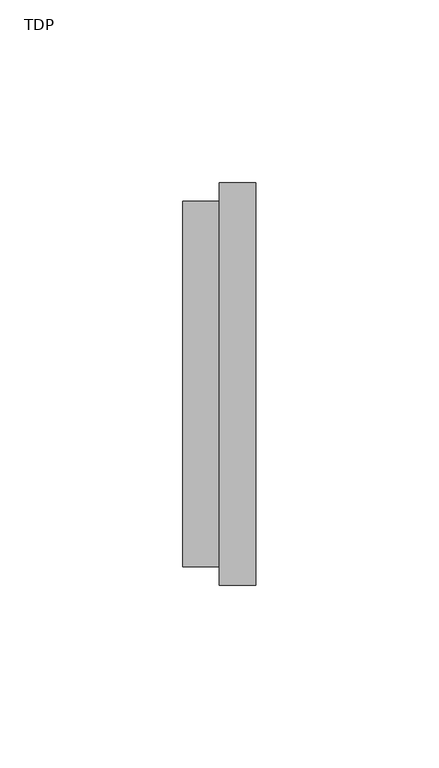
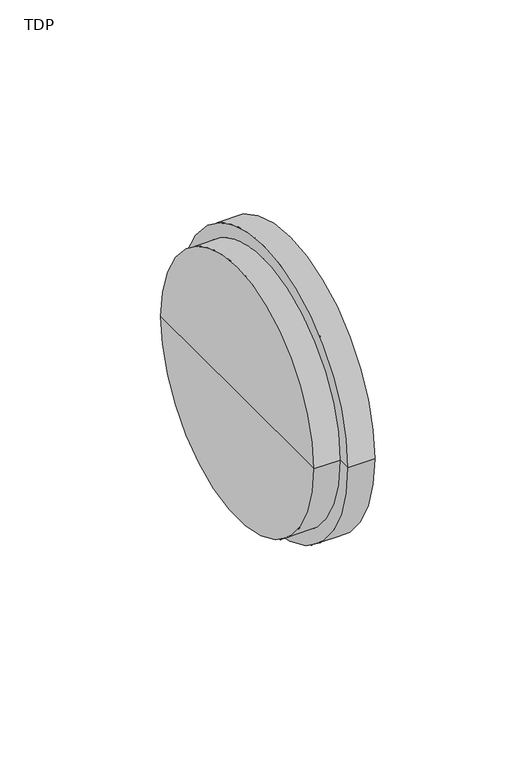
"""IFC4 building model written with IfcOpenShell, lengths in millimetres: cable carrier fitting geometry, PavcoWavin_ConduitFittings_Tapon : TDP."""

from ifc_helpers import new_model, si_unit, frame, origin, place, context, project, spatial, circle_curve, source, transform, mapped, element, save
from ifc_brep_helpers import plane_surface, cylinder_surface, advanced_brep


def tdp_9431bb59(model_context):
    return source(origin(), model_context, "Body", "AdvancedBrep", [
        advanced_brep(
        [(20.0, -55.0, 0.0), (20.0, 55.0, 0.0), (20.0, 0.0, 0.0), (10.0, -55.0, 0.0), (10.0, 55.0, 0.0), (10.0, -50.0, 0.0), (10.0, 50.0, 0.0), (0.0, -50.0, 0.0), (0.0, 50.0, 0.0), (0.0, 0.0, 0.0)],
        [
            (0, 1, circle_curve(frame((20.0, 0.0, 0.0), z_axis=(1.0, 0.0, 0.0), x_axis=(0.0, 1.0, 0.0)), 55.0)),
            (1, 2),
            (2, 0),
            (1, 0, circle_curve(frame((20.0, 0.0, 0.0), z_axis=(1.0, 0.0, 0.0), x_axis=(0.0, 1.0, 0.0)), 55.0)),
            (3, 4, circle_curve(frame((10.0, 0.0, 0.0), z_axis=(1.0, 0.0, 0.0), x_axis=(0.0, 1.0, 0.0)), 55.0)),
            (4, 1),
            (0, 3),
            (4, 3, circle_curve(frame((10.0, 0.0, 0.0), z_axis=(1.0, 0.0, 0.0), x_axis=(0.0, 1.0, 0.0)), 55.0)),
            (5, 6, circle_curve(frame((10.0, 0.0, 0.0), z_axis=(1.0, 0.0, 0.0), x_axis=(0.0, 1.0, 0.0)), 50.0)),
            (6, 4),
            (3, 5),
            (6, 5, circle_curve(frame((10.0, 0.0, 0.0), z_axis=(1.0, 0.0, 0.0), x_axis=(0.0, 1.0, 0.0)), 50.0)),
            (7, 8, circle_curve(frame((0.0, 0.0, 0.0), z_axis=(1.0, 0.0, 0.0), x_axis=(0.0, 1.0, 0.0)), 50.0)),
            (8, 6),
            (5, 7),
            (8, 7, circle_curve(frame((0.0, 0.0, 0.0), z_axis=(1.0, 0.0, 0.0), x_axis=(0.0, 1.0, 0.0)), 50.0)),
            (9, 8),
            (7, 9),
        ],
        [
            plane_surface(frame((20.0, 0.0, 0.0), z_axis=(1.0, 0.0, 0.0), x_axis=(0.0, 1.0, 0.0))),
            cylinder_surface(frame((1978.9053182, 0.0, 0.0), z_axis=(-1.0, 0.0, 0.0), x_axis=(0.0, 1.0, 0.0)), 55.0),
            plane_surface(frame((10.0, 0.0, 0.0), z_axis=(-1.0, 0.0, 0.0), x_axis=(0.0, 1.0, 0.0))),
            cylinder_surface(frame((1978.9053182, 0.0, 0.0), z_axis=(-1.0, 0.0, 0.0), x_axis=(0.0, 1.0, 0.0)), 50.0),
            plane_surface(frame((0.0, 0.0, 0.0), z_axis=(-1.0, 0.0, 0.0), x_axis=(0.0, 1.0, 0.0))),
        ],
        [
            (0, [[1, 2, 3]]),
            (0, [[4, -3, -2]]),
            (1, [[5, 6, -1, 7]]),
            (1, [[8, -7, -4, -6]]),
            (2, [[9, 10, -5, 11]]),
            (2, [[12, -11, -8, -10]]),
            (3, [[13, 14, -9, 15]]),
            (3, [[16, -15, -12, -14]]),
            (4, [[17, -13, 18]]),
            (4, [[-18, -16, -17]]),
        ],
    ),
    ])


if __name__ == "__main__":
    model = new_model("IFC4")
    model_context = context("Model", 3, world=origin())
    ifc_project = project(units=[si_unit("LENGTHUNIT", "METRE", prefix="MILLI")], contexts=[model_context])
    site = spatial("IfcSite", under=ifc_project)
    building = spatial("IfcBuilding", under=site)
    placement = place(None, origin())
    tdp_shape = tdp_9431bb59(model_context)
    element("IfcCableCarrierFitting", 1, ObjectType="PavcoWavin_ConduitFittings_Tapon : TDP", at=placement, inside=building, context=model_context, shape_type="MappedRepresentation", body=[
        mapped(tdp_shape, transform((0.0, 0.0, 0.0), x_axis=(1.0, 0.0, 0.0), y_axis=(0.0, 1.0, 0.0), z_axis=(0.0, 0.0, 1.0))),
    ])
    save(model, "model.ifc")
